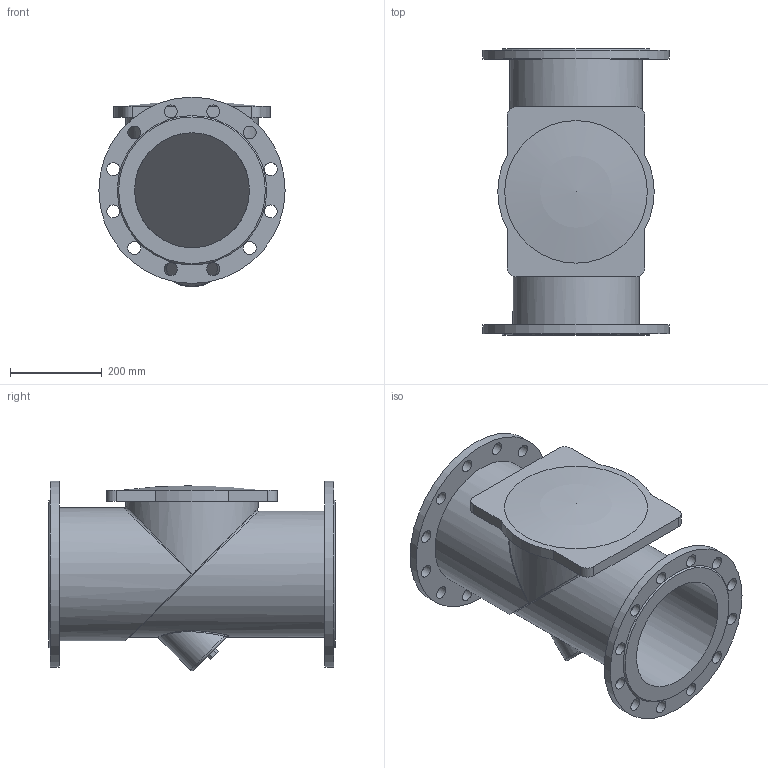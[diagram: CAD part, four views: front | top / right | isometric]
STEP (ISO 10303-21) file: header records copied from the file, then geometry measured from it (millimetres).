
FILE_DESCRIPTION(('STEP AP203'), '1');
FILE_NAME('Êëàïàí îäíîñòâîð÷àòûé îáðàòíûé ôëàíöåâûé 015F.Z DN250 PN16', '', ('UNSPECIFIED'), ('UNSPECIFIED'), 'ASCON STEP Converter 1.6', 'ASCON Math Kernel', '');
FILE_SCHEMA(('CONFIG_CONTROL_DESIGN'));
Length unit declared in the file: millimetre
Bounding box: 405 x 622 x 412.56 mm (x, y, z)
Volume: 15510933.2 mm3; surface area: 1734473.3 mm2
Topology: 1 solids, 2 shells, 78 faces, 183 edges, 118 vertices
Faces by surface type: cylinder 41, plane 27, bspline 6, cone 2, torus 1, sphere 1
Full cylindrical faces by diameter (mm): 28 x24, 250 x2, 265 x1, 274 x1, 289 x2, 405 x2
Entity records: 4455 total; most frequent: CARTESIAN_POINT 2064, DIRECTION 346, ORIENTED_EDGE 288, EDGE_LOOP 173, AXIS2_PLACEMENT_3D 152, EDGE_CURVE 144, VERTEX_POINT 117, FACE_BOUND 104
